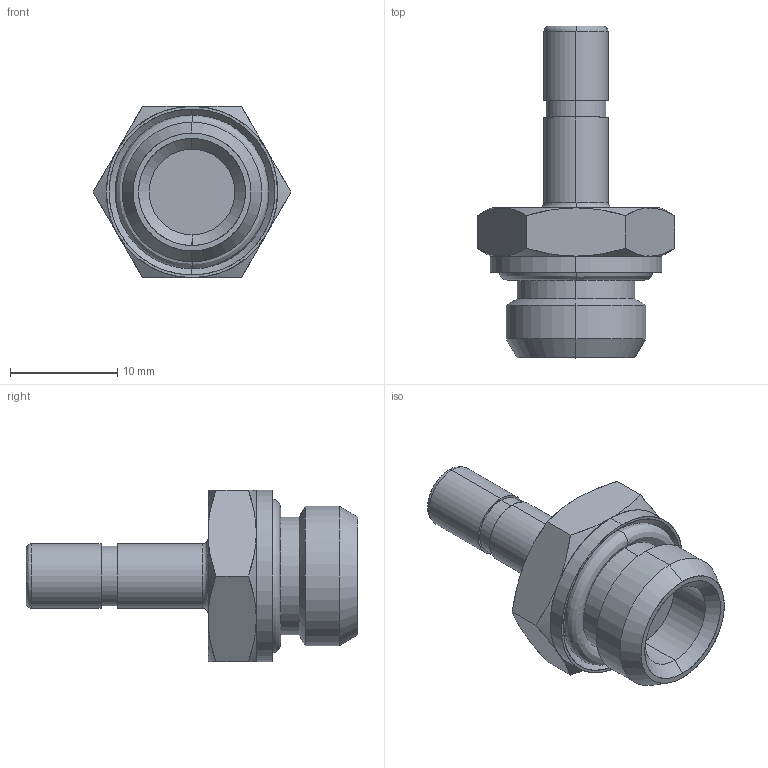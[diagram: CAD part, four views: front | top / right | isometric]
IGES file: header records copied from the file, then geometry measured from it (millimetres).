
Start section: SolidWorks IGES file using analytic representation for surfaces
Global section: file name: K:\Disegni Esecutivi\Serie 50000\ASSIEMI\50600\ASSIEMI_.IGES_50600\5060000004.IGS; native system: SolidWorks 2007; preprocessor: SolidWorks 2007; author: cad02; date: 071012.113203; units: millimetre
Bounding box: 18.48 x 31 x 16 mm (x, y, z)
Surface area: 1710.9 mm2 (no closed solid volume)
Topology: 0 solids, 0 shells, 64 faces, 945 edges, 945 vertices
Faces by surface type: revolution 40, bspline 24
